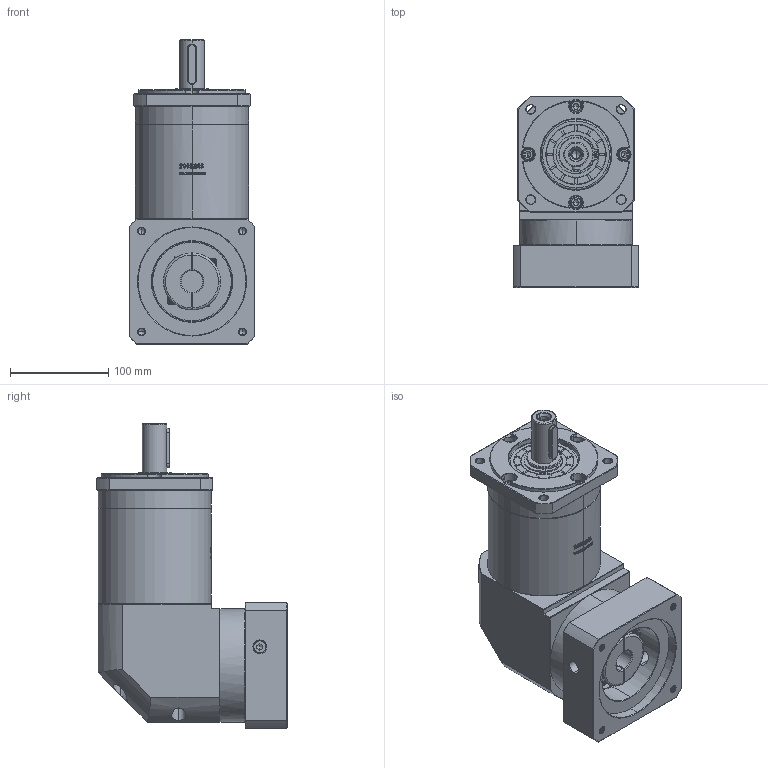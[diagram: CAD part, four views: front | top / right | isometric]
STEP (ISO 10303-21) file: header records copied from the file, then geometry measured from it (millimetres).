
FILE_DESCRIPTION (( 'STEP AP214' ), '1' );
FILE_NAME ('ZFR120A-D25-L3-22-110-145-M8.step', '2023-03-08T08:22:18', ( '' ), ( '' ), 'SwSTEP 2.0', 'SolidWorks 2016', '' );
FILE_SCHEMA (( 'AUTOMOTIVE_DESIGN' ));
Length unit declared in the file: millimetre
Products named in the file (1): ZFR120A-D25-L3-22-110-145-M8
Bounding box: 128 x 193.9 x 310 mm (x, y, z)
Volume: 3568808.8 mm3; surface area: 272031.6 mm2
Topology: 6 solids, 6 shells, 2871 faces, 7672 edges, 4946 vertices
Faces by surface type: plane 1484, bspline 607, cylinder 434, cone 338, torus 8
Entity records: 157858 total; most frequent: CARTESIAN_POINT 60497, ORIENTED_EDGE 15284, DIRECTION 11115, EDGE_CURVE 7642, VERTEX_POINT 4946, VECTOR 4749, LINE 4749, AXIS2_PLACEMENT_3D 3183
